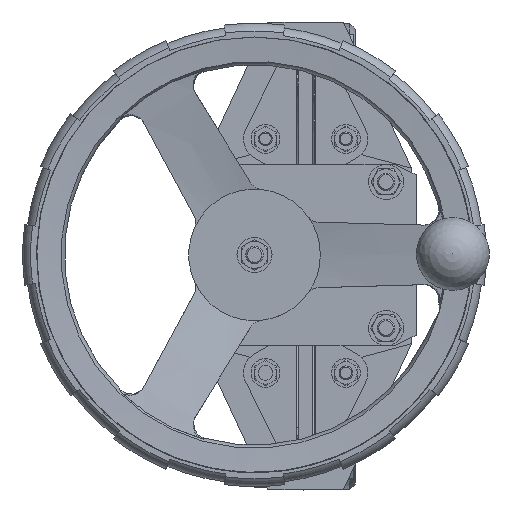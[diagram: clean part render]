
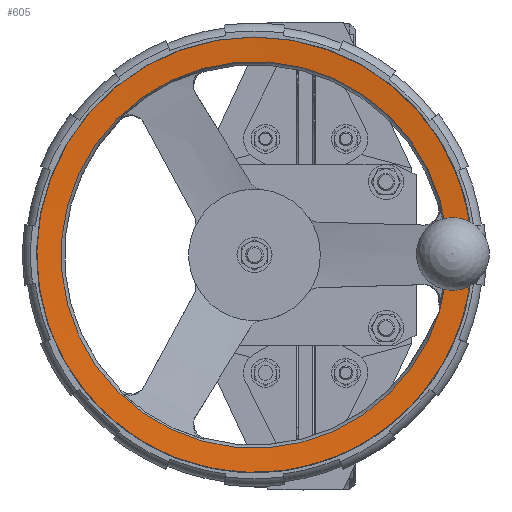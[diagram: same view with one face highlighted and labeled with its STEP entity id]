
A CAD part, top view. The second image highlights one B-rep face of the part: STEP entity #605.
In plain terms, the highlighted conical face has half-angle 85 degrees and reference radius 149 mm.
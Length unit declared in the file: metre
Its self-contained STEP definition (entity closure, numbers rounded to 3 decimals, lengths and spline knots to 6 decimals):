
#605=ADVANCED_FACE('',(#2068),#2069,.F.);
#2068=FACE_OUTER_BOUND('',#4882,.T.);
#2069=CONICAL_SURFACE('',#4883,0.149,1.484);
#4882=EDGE_LOOP('',(#9519,#9520,#9521,#9522,#9523,#9524));
#4883=AXIS2_PLACEMENT_3D('',#9525,#9526,#9527);
#9519=ORIENTED_EDGE('',*,*,#13194,.F.);
#9520=ORIENTED_EDGE('',*,*,#13006,.T.);
#9521=ORIENTED_EDGE('',*,*,#13189,.T.);
#9522=ORIENTED_EDGE('',*,*,#13185,.T.);
#9523=ORIENTED_EDGE('',*,*,#13188,.T.);
#9524=ORIENTED_EDGE('',*,*,#13000,.T.);
#9525=CARTESIAN_POINT('',(-0.035,0.0,0.716465));
#9526=DIRECTION('',(-0.0,0.,1.0));
#9527=DIRECTION('',(0.0,-1.0,0.));
#13000=EDGE_CURVE('',#15940,#15937,#15941,.T.);
#13006=EDGE_CURVE('',#15946,#15950,#15952,.T.);
#13185=EDGE_CURVE('',#16236,#16234,#16237,.T.);
#13188=EDGE_CURVE('',#16234,#15940,#16240,.T.);
#13189=EDGE_CURVE('',#15950,#16236,#16241,.T.);
#13194=EDGE_CURVE('',#15946,#15937,#16246,.T.);
#15937=VERTEX_POINT('',#22312);
#15940=VERTEX_POINT('',#22316);
#15941=B_SPLINE_CURVE_WITH_KNOTS('',3,(#22317,#22318,#22319,#22320,#22321,#22322,#22323),.UNSPECIFIED.,.F.,.F.,(4,3,4),(0.023624,0.02539,0.036917),.UNSPECIFIED.);
#15946=VERTEX_POINT('',#22330);
#15950=VERTEX_POINT('',#22336);
#15952=B_SPLINE_CURVE_WITH_KNOTS('',3,(#22339,#22340,#22341,#22342,#22343,#22344,#22345),.UNSPECIFIED.,.F.,.F.,(4,3,4),(0.013863,0.02539,0.027156),.UNSPECIFIED.);
#16234=VERTEX_POINT('',#22808);
#16236=VERTEX_POINT('',#22813);
#16237=CIRCLE('',#22814,0.132253);
#16240=B_SPLINE_CURVE_WITH_KNOTS('',3,(#22863,#22864,#22865,#22866),.UNSPECIFIED.,.F.,.F.,(4,4),(0.000002,0.003589),.UNSPECIFIED.);
#16241=B_SPLINE_CURVE_WITH_KNOTS('',3,(#22867,#22868,#22869,#22870,#22871,#22872),.UNSPECIFIED.,.F.,.F.,(4,2,4),(0.017724,0.019511,0.021297),.UNSPECIFIED.);
#16246=CIRCLE('',#22877,0.149);
#22312=CARTESIAN_POINT('',(0.113243,0.015,0.716465));
#22316=CARTESIAN_POINT('',(0.1,0.015,0.715313));
#22317=CARTESIAN_POINT('',(0.1,0.015,0.715313));
#22318=CARTESIAN_POINT('',(0.100587,0.015,0.715364));
#22319=CARTESIAN_POINT('',(0.101173,0.015,0.715415));
#22320=CARTESIAN_POINT('',(0.10176,0.015,0.715466));
#22321=CARTESIAN_POINT('',(0.105588,0.015,0.715799));
#22322=CARTESIAN_POINT('',(0.109415,0.015,0.716132));
#22323=CARTESIAN_POINT('',(0.113243,0.015,0.716465));
#22330=CARTESIAN_POINT('',(0.113243,-0.015,0.716465));
#22336=CARTESIAN_POINT('',(0.1,-0.015,0.715313));
#22339=CARTESIAN_POINT('',(0.113243,-0.015,0.716465));
#22340=CARTESIAN_POINT('',(0.109415,-0.015,0.716132));
#22341=CARTESIAN_POINT('',(0.105588,-0.015,0.715799));
#22342=CARTESIAN_POINT('',(0.10176,-0.015,0.715466));
#22343=CARTESIAN_POINT('',(0.101173,-0.015,0.715415));
#22344=CARTESIAN_POINT('',(0.100587,-0.015,0.715364));
#22345=CARTESIAN_POINT('',(0.1,-0.015,0.715313));
#22808=CARTESIAN_POINT('',(0.096448,0.014573,0.715));
#22813=CARTESIAN_POINT('',(0.096448,-0.014573,0.715));
#22814=AXIS2_PLACEMENT_3D('',#26977,#26978,#26979);
#22863=CARTESIAN_POINT('',(0.096448,0.014573,0.715));
#22864=CARTESIAN_POINT('',(0.097622,0.014859,0.715105));
#22865=CARTESIAN_POINT('',(0.098806,0.015,0.715209));
#22866=CARTESIAN_POINT('',(0.1,0.015,0.715313));
#22867=CARTESIAN_POINT('',(0.1,-0.015,0.715313));
#22868=CARTESIAN_POINT('',(0.099407,-0.015,0.715261));
#22869=CARTESIAN_POINT('',(0.098814,-0.014965,0.715209));
#22870=CARTESIAN_POINT('',(0.097627,-0.014823,0.715105));
#22871=CARTESIAN_POINT('',(0.097032,-0.014716,0.715052));
#22872=CARTESIAN_POINT('',(0.096448,-0.014573,0.715));
#22877=AXIS2_PLACEMENT_3D('',#26992,#26993,#26994);
#26977=CARTESIAN_POINT('',(-0.035,0.0,0.715));
#26978=DIRECTION('',(0.0,0.,-1.0));
#26979=DIRECTION('',(0.0,1.0,0.));
#26992=CARTESIAN_POINT('',(-0.035,0.0,0.716465));
#26993=DIRECTION('',(0.0,0.,-1.0));
#26994=DIRECTION('',(0.0,1.0,0.));
